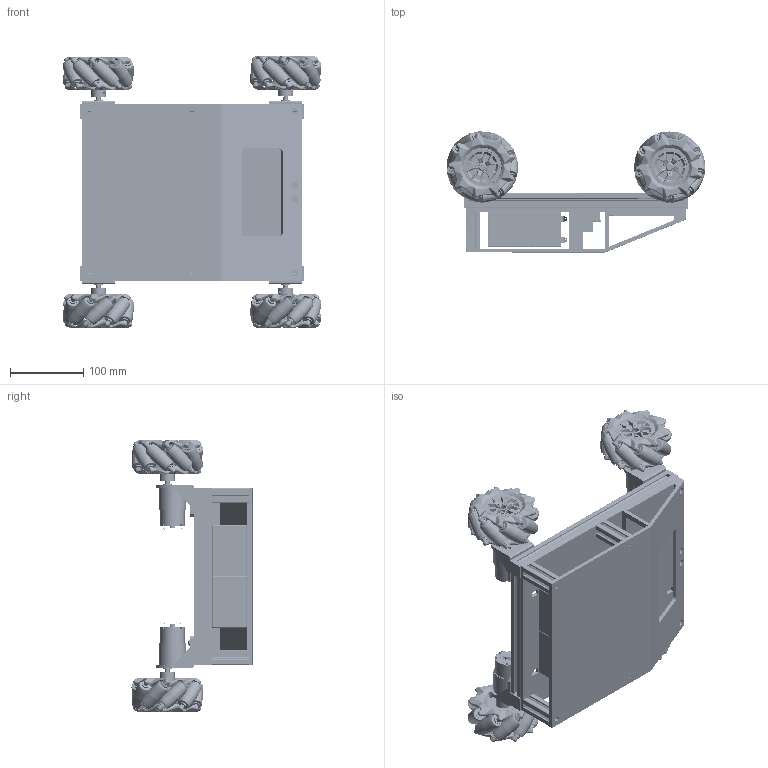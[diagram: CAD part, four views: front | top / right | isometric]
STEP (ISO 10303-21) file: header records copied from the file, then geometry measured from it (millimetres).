
FILE_DESCRIPTION(/* description */ (''),/* implementation_level */ '2;1');
FILE_NAME(/* name */ 'Assieme_drone2.stp',/* time_stamp */ '2025-05-26T20:07:15+02:00',/* author */ ('R5800u'),/* organization */ (''),/* preprocessor_version */ 'ST-DEVELOPER v20',/* originating_system */ 'Autodesk Inventor 2025',/* authorisation */ '');
FILE_SCHEMA (('AUTOMOTIVE_DESIGN { 1 0 10303 214 3 1 1 }'));
Products named in the file (93): Assieme_drone2; tslot-20x20-1; tslot-20x20-1_MIR; tslot-20x20-2; SNSD20x20_MIR; SNSD20x20; MM-JGB37; JGB37-520; AS 1427 - M4 x 10; MM-JGB37 v4_MIR; JGB37-520_MIR; MM-JGB37 v4_MIR1; JGB37-520_MIR1; MM-JGB37 v4_MIR_MIR; JGB37-520_MIR_MIR; Mecanum wheel - right; Mecanum wheel - left; albero_ottonre_12x6; pianoA; batteira_6V_LIFEPO4; L298N; Assembly; pcb; JST - PH - SMD (R) - 2Pin - 2.00mm; pinheaderyellow; COMPOUND; COMPOUND_1; COMPOUND_2; COMPOUND_3; COMPOUND_4; COMPOUND_5; COMPOUND_6; COMPOUND_7; COMPOUND_8; COMPOUND_9; COMPOUND_10; COMPOUND_11; COMPOUND_12; COMPOUND_13; COMPOUND_14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
Assembly tree (118 placements, depth 5):
  Assieme_drone2
    tslot-20x20-1
    tslot-20x20-1_MIR
    tslot-20x20-2  x3
    SNSD20x20  x3
    SNSD20x20_MIR  x3
    tslot-20x20-3  x4
    MM-JGB37
    JGB37-520
    AS 1427 - M4 x 10  x3
    MM-JGB37 v4_MIR
    JGB37-520_MIR
    MM-JGB37 v4_MIR1
    JGB37-520_MIR1
    MM-JGB37 v4_MIR_MIR
    JGB37-520_MIR_MIR
    Mecanum wheel - right  x2
    Mecanum wheel - left  x2
    albero_ottonre_12x6  x4
    tappi_tslot  x4
    pianoA
    batteira_6V_LIFEPO4  x2
    L298N  x2
    Assembly
      pcb
      pinheaderyellow  x2
        COMPOUND
          COMPOUND_1
          COMPOUND_2
          COMPOUND_3
          COMPOUND_4
          COMPOUND_5
          COMPOUND_6
          COMPOUND_7
          COMPOUND_8
        COMPOUND_9
          COMPOUND_10
          COMPOUND_11
          COMPOUND_12
          COMPOUND_13
          COMPOUND_14
          COMPOUND_15
          COMPOUND_16
          COMPOUND_17
      pinheader8Red  x2
        COMPOUND_18
          COMPOUND_19
          COMPOUND_20
          COMPOUND_21
          COMPOUND_22
          COMPOUND_23
          COMPOUND_24
          COMPOUND_25
          COMPOUND_26
        COMPOUND_27
          COMPOUND_28
          COMPOUND_29
          COMPOUND_30
          COMPOUND_31
          COMPOUND_32
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Bounding box: 352.4 x 164.8 x 370.3 mm (x, y, z)
Volume: 2486992 mm3; surface area: 1126162.2 mm2
Topology: 205 solids, 289 shells, 18955 faces, 48146 edges, 29308 vertices
Faces by surface type: plane 10436, cylinder 3561, bspline 3306, sphere 695, torus 627, cone 330
Full cylindrical faces by diameter (mm): 0.6 x2, 0.7 x64, 1 x32, 1.35 x20, 1.6 x12, 2 x12, 2.1 x2, 2.5 x24, 2.6 x12, 3 x14, 3.175 x8, 3.191 x2, 3.2 x8, 3.375 x8, 3.4 x8, 3.5 x38, 3.571 x3, 3.75 x20, 4 x19, 4.2 x23, 4.5 x14, 5 x17, 5.15 x20, 5.25 x72, 5.3 x24, 5.5 x4, 5.75 x144, 6 x16, 6.469 x1, 7.5 x44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
Entity records: 445562 total; most frequent: CARTESIAN_POINT 200273, ORIENTED_EDGE 50898, DIRECTION 46912, EDGE_CURVE 25561, AXIS2_PLACEMENT_3D 16274, VERTEX_POINT 15884, LINE 14364, VECTOR 14364
